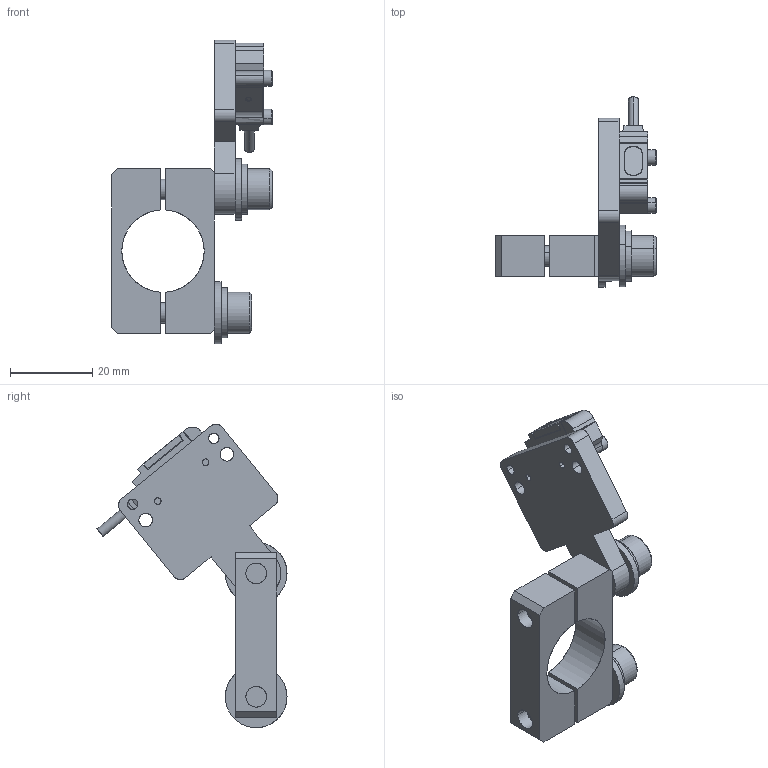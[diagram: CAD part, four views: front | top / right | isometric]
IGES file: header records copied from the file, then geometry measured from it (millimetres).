
Start section: SolidWorks IGES file using analytic representation for surfaces
Global section: file name: E:\EFCKishi\Šm”F\JLM\IGES\JLM-004.IGS; native system: SolidWorks 2006 by SolidWorks Corporation; preprocessor: SolidWorks 2006 by SolidWorks Corporation; author: CAD58; date: 080913.084629; units: millimetre
Bounding box: 39.1 x 46.19 x 73.71 mm (x, y, z)
Surface area: 10569.3 mm2 (no closed solid volume)
Topology: 0 solids, 0 shells, 234 faces, 2908 edges, 2884 vertices
Faces by surface type: bspline 157, revolution 77
